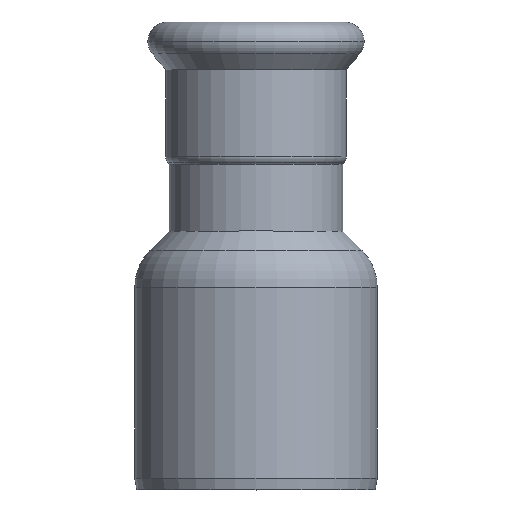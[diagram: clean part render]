
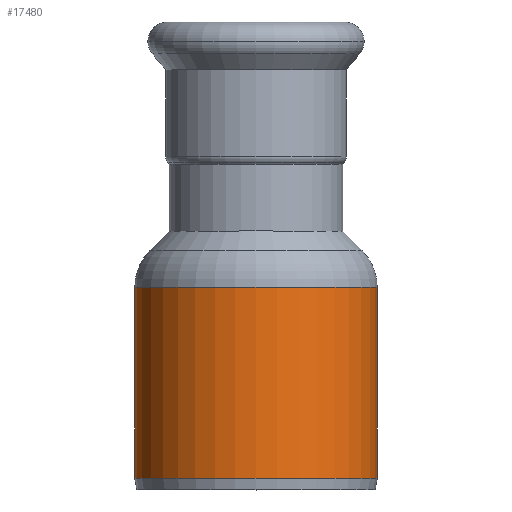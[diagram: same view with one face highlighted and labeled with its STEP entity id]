
A CAD part, top view. The second image highlights one B-rep face of the part: STEP entity #17480.
In plain terms, the highlighted cylindrical face has radius 21 mm (diameter 42 mm), a partial arc.
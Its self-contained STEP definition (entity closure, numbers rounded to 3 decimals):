
#1950=CARTESIAN_POINT('',(-202.976,33.421,0.));
#1960=DIRECTION('',(0.,-1.,0.));
#1970=DIRECTION('',(1.,0.,0.));
#1980=AXIS2_PLACEMENT_3D('',#1950,#1960,#1970);
#1990=CYLINDRICAL_SURFACE('',#1980,21.);
#2000=CARTESIAN_POINT('',(-181.976,33.421,0.));
#2010=DIRECTION('',(0.,-1.,0.));
#2020=VECTOR('',#2010,1.);
#2030=LINE('',#2000,#2020);
#2040=CARTESIAN_POINT('',(-181.976,20.693,0.));
#2050=VERTEX_POINT('',#2040);
#2060=CARTESIAN_POINT('',(-181.976,-12.379,0.));
#2070=VERTEX_POINT('',#2060);
#2080=EDGE_CURVE('',#2050,#2070,#2030,.T.);
#2100=CARTESIAN_POINT('',(-202.976,20.693,0.));
#2110=DIRECTION('',(0.,-1.,0.));
#2120=DIRECTION('',(-1.,0.,0.));
#2130=AXIS2_PLACEMENT_3D('',#2100,#2110,#2120);
#2140=CIRCLE('',#2130,21.);
#2150=CARTESIAN_POINT('',(-223.976,20.693,0.));
#2160=VERTEX_POINT('',#2150);
#2190=CARTESIAN_POINT('',(-223.976,33.421,
0.));
#2200=DIRECTION('',(0.,-1.,0.));
#2210=VECTOR('',#2200,1.);
#2220=LINE('',#2190,#2210);
#2230=CARTESIAN_POINT('',(-223.976,-12.379,
0.));
#2240=VERTEX_POINT('',#2230);
#2250=EDGE_CURVE('',#2160,#2240,#2220,.T.);
#2270=CARTESIAN_POINT('',(-202.976,-12.379,0.));
#2280=DIRECTION('',(0.,-1.,0.));
#2290=DIRECTION('',(-1.,0.,0.));
#2300=AXIS2_PLACEMENT_3D('',#2270,#2280,#2290);
#2310=CIRCLE('',#2300,21.);
#16820=EDGE_CURVE('',#2050,#2160,#2140,.T.);
#17290=EDGE_CURVE('',#2070,#2240,#2310,.T.);
#17420=ORIENTED_EDGE('',*,*,#2080,.F.);
#17430=ORIENTED_EDGE('',*,*,#17290,.F.);
#17440=ORIENTED_EDGE('',*,*,#2250,.T.);
#17450=ORIENTED_EDGE('',*,*,#16820,.T.);
#17460=EDGE_LOOP('',(#17450,#17440,#17430,#17420));
#17470=FACE_OUTER_BOUND('',#17460,.T.);
#17480=ADVANCED_FACE('',(#17470),#1990,.T.);
